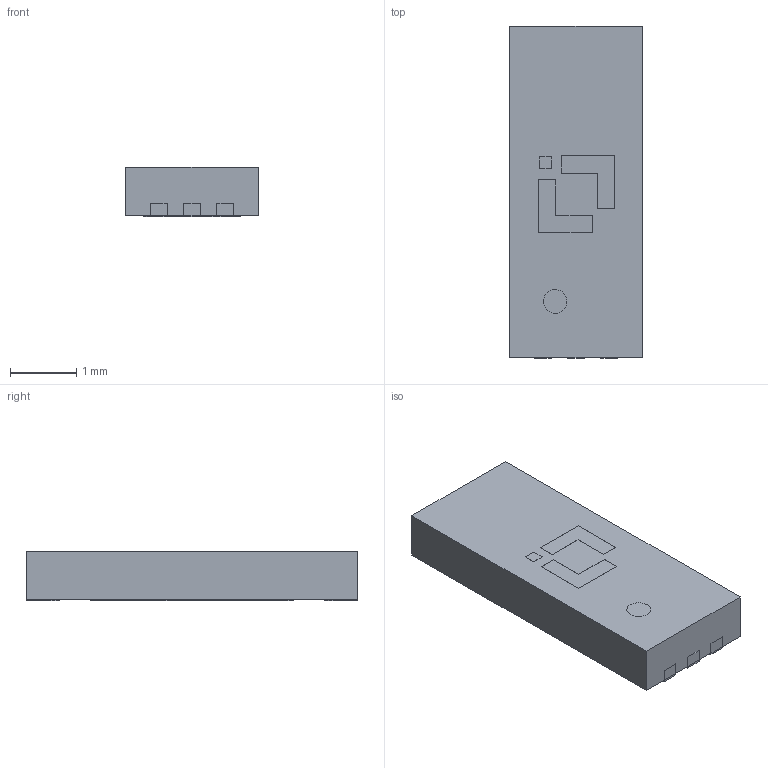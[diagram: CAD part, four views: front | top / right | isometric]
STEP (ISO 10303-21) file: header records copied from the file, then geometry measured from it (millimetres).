
FILE_DESCRIPTION(('HOOPS Exchange Step'),'2;1');
FILE_NAME('C:\Users\18121\AppData\Local\Packages\Shapr3D.Shapr3D_dvv5p1vgwv6mp\TempState\export\temp_export','2025-12-05T10:44:48+08:00',('18121'),('Shapr3D Limited'),'HOOPS Exchange 2025.7','Shapr3D','Authorized');
FILE_SCHEMA( ('AP242_MANAGED_MODEL_BASED_3D_ENGINEERING_MIM_LF {1 0 10303 442 1 1 4}') );
Length unit declared in the file: millimetre
Products named in the file (2): 直线图案 01; root
Assembly tree (1 placements, depth 2):
  root
    直线图案 01
Bounding box: 2 x 5 x 0.75 mm (x, y, z)
Volume: 7.5 mm3; surface area: 33.5 mm2
Topology: 7 solids, 7 shells, 75 faces, 170 edges, 114 vertices
Faces by surface type: plane 62, cylinder 13
Full cylindrical faces by diameter (mm): 0.355 x1
Entity records: 2170 total; most frequent: CARTESIAN_POINT 363, DIRECTION 356, ORIENTED_EDGE 340, EDGE_CURVE 170, VECTOR 142, LINE 142, VERTEX_POINT 114, AXIS2_PLACEMENT_3D 107
